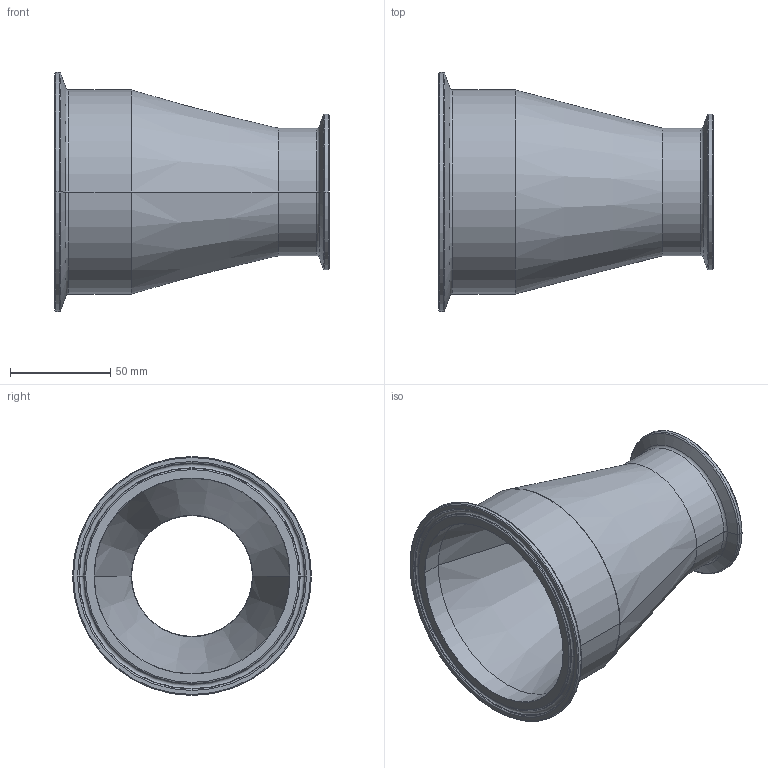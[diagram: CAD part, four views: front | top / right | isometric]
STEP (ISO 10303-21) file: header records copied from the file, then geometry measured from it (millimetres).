
FILE_DESCRIPTION (( 'STEP AP214' ), '1' );
FILE_NAME ('TEG31SCC6I4.0x2.5.STEP', '2016-05-29T14:46:34', ( 'eran' ), ( '' ), 'SwSTEP 2.0', 'SolidWorks 2016', '' );
FILE_SCHEMA (( 'AUTOMOTIVE_DESIGN' ));
Length unit declared in the file: millimetre
Products named in the file (1): TEG31SCC6I4.0x2.5
Bounding box: 136.53 x 119 x 119 mm (x, y, z)
Volume: 233898 mm3; surface area: 77716 mm2
Topology: 1 solids, 1 shells, 64 faces, 128 edges, 68 vertices
Faces by surface type: cone 24, torus 24, cylinder 12, plane 4
Entity records: 1686 total; most frequent: DIRECTION 350, CARTESIAN_POINT 261, ORIENTED_EDGE 256, AXIS2_PLACEMENT_3D 157, EDGE_CURVE 128, CIRCLE 92, EDGE_LOOP 68, VERTEX_POINT 68
